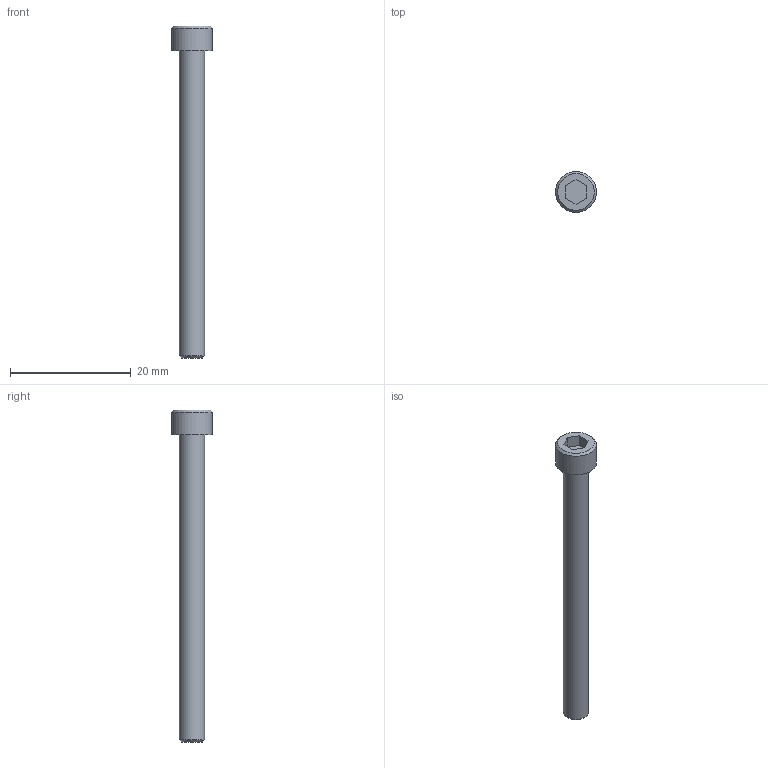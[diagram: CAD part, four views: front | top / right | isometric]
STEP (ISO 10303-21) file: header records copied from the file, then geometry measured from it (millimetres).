
FILE_DESCRIPTION((''),'2;1');
FILE_NAME('C:\Users\Stan\Desktop\import\SHCS 8-32 UNCx2.ipt.step','2011-08-18T17:45:41',(''),(''),'Autodesk Inventor 2012','Autodesk Inventor 2012','');
FILE_SCHEMA(('AUTOMOTIVE_DESIGN { 1 0 10303 214 1 1 1 1 }'));
Length unit declared in the file: inch
Products named in the file (1): SHCS 8-32 UNCx2
Bounding box: 6.76 x 6.76 x 54.91 mm (x, y, z)
Volume: 816 mm3; surface area: 840.6 mm2
Topology: 1 solids, 1 shells, 14 faces, 28 edges, 18 vertices
Faces by surface type: plane 10, cone 2, cylinder 2
Full cylindrical faces by diameter (mm): 4.166 x1, 6.756 x1
Entity records: 391 total; most frequent: DIRECTION 60, CARTESIAN_POINT 57, ORIENTED_EDGE 48, EDGE_CURVE 24, AXIS2_PLACEMENT_3D 21, EDGE_LOOP 20, VERTEX_POINT 18, VECTOR 18
